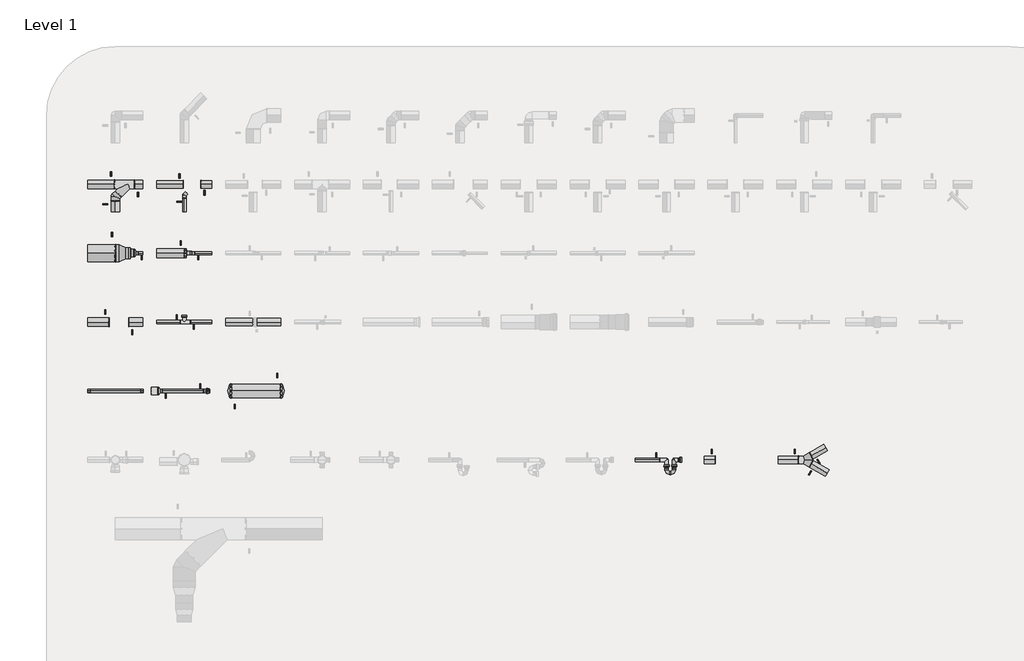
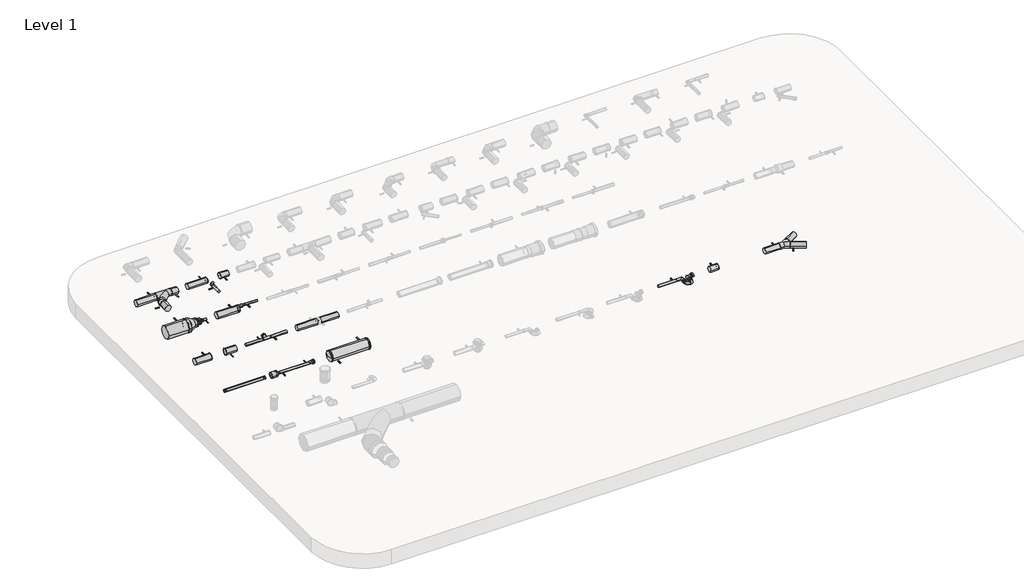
# One storey, part 2 of 6: 42 pipe fittings, 24 pipe segments.
"""IFC4 building model written with IfcOpenShell, lengths in millimetres."""

from ifc_helpers import new_model, si_unit, point, frame, frame_2d, origin, place, context, project, spatial, circle_curve, trimmed, segment, composite_curve, outline, extrude, transform, mapped, element, save
from components import var_9bac737f, var_ad64e43e, var_e8e01903, var_f264d998, var_078c649d, var_733641dc, var_dcd50663, nested_do_not_use_355ab53d, nested_do_not_use_767789ff, nested_do_not_use_92dc5302, nested_do_not_use_8d55d71e, nested_do_not_use_f3a1de72, nested_do_not_use_f8d48da3, nested_do_not_use_7bd735e8, nested_do_not_use_cade87c8, nested_do_not_use_3388fafc, nested_do_not_use_d63bcd51, welded_7e5780db, welded_b2ff7ccb, welded_75b1cb19, welded_63566782, welded_ed6f555c, welded_ac007b25

model = new_model("IFC4")

# Units and contexts
model_context = context("Model", 3, world=origin())
ifc_project = project(units=[si_unit("LENGTHUNIT", "METRE", prefix="MILLI")], contexts=[model_context])

# Site, building, storey
site = spatial("IfcSite", under=ifc_project)
building = spatial("IfcBuilding", under=site)
storey = spatial("IfcBuildingStorey", under=building, Name="Level 1", Elevation=0.0)

# Pipe fittings
placement = place(None, origin())
var_shape = var_9bac737f(model_context)
element("IfcPipeFitting", 1, ObjectType="NLRS_52_PIF_UN_HDPE cap for pipe_Akatherm : Var.", at=placement, inside=storey, context=model_context, shape_type="MappedRepresentation", body=[
    mapped(var_shape, transform((2259.9781064, 16273.6274824, 200.0), x_axis=(-1.0, 0.0, 0.0), y_axis=(0.0, -1.0, 0.0), z_axis=(0.0, 0.0, 1.0))),
])
element("IfcPipeFitting", 2, ObjectType="NLRS_52_PIF_UN_HDPE cap for pipe_Akatherm : Var.", at=placement, inside=storey, context=model_context, shape_type="MappedRepresentation", body=[
    mapped(var_shape, transform((3059.9781064, 16273.6274824, 200.0), x_axis=(1.0, 0.0, 0.0), y_axis=(0.0, 1.0, 0.0), z_axis=(0.0, 0.0, 1.0))),
])
var_2_shape = var_ad64e43e(model_context)
element("IfcPipeFitting", 3, ObjectType="NLRS_52_PIF_UN_HDPE cleanout branch_Akatherm : Var.", at=placement, inside=storey, context=model_context, shape_type="MappedRepresentation", body=[
    mapped(var_2_shape, transform((3659.9781064, 17273.6274824, 200.0), x_axis=(1.0, 0.0, 0.0), y_axis=(0.0, 1.0, 0.0), z_axis=(0.0, 0.0, 1.0))),
])
var_3_shape = var_e8e01903(model_context)
element("IfcPipeFitting", 4, ObjectType="NLRS_52_PIF_UN_HDPE end cap round_Akatherm : Var.", at=placement, inside=storey, context=model_context, shape_type="MappedRepresentation", body=[
    mapped(var_3_shape, transform((4339.9781064, 16273.6274824, 200.0), x_axis=(-1.0, 0.0, 0.0), y_axis=(0.0, -1.0, 0.0), z_axis=(0.0, 0.0, 1.0))),
])
element("IfcPipeFitting", 5, ObjectType="NLRS_52_PIF_UN_HDPE end cap round_Akatherm : Var.", at=placement, inside=storey, context=model_context, shape_type="MappedRepresentation", body=[
    mapped(var_3_shape, transform((5059.9781064, 16273.6274824, 200.0), x_axis=(1.0, 0.0, 0.0), y_axis=(0.0, 1.0, 0.0), z_axis=(0.0, 0.0, 1.0))),
])
var_4_shape = var_f264d998(model_context)
element("IfcPipeFitting", 6, ObjectType="NLRS_52_PIF_UN_HDPE inspection screw lock_Akatherm : Var.", at=placement, inside=storey, context=model_context, shape_type="MappedRepresentation", body=[
    mapped(var_4_shape, transform((3939.9781064, 16273.6274824, 200.0), x_axis=(1.0, 0.0, 0.0), y_axis=(0.0, 1.0, 0.0), z_axis=(0.0, 0.0, 1.0))),
])
var_5_shape = var_078c649d(model_context)
element("IfcPipeFitting", 7, ObjectType="NLRS_52_PIF_UN_HDPE screw cap_Akatherm : Var.", at=placement, inside=storey, context=model_context, shape_type="MappedRepresentation", body=[
    mapped(var_5_shape, transform((3265.3781064, 16273.6274824, 200.0), x_axis=(-1.0, 0.0, 0.0), y_axis=(0.0, -1.0, 0.0), z_axis=(0.0, 0.0, 1.0))),
])
var_6_shape = var_733641dc(model_context)
element("IfcPipeFitting", 8, ObjectType="NLRS_52_PIF_UN_HDPE u trap_Akatherm : Var.", at=placement, inside=storey, context=model_context, shape_type="MappedRepresentation", body=[
    mapped(var_6_shape, transform((10714.9781064, 15273.6274824, 200.0), x_axis=(1.0, 0.0, 0.0), y_axis=(0.0, 1.0, 0.0), z_axis=(0.0, 0.0, 1.0))),
])
var_7_shape = var_dcd50663(model_context)
element("IfcPipeFitting", 9, ObjectType="NLRS_52_PIF_UN_HDPE y branch_Akatherm : Var.", at=placement, inside=storey, context=model_context, shape_type="MappedRepresentation", body=[
    mapped(var_7_shape, transform((12659.9781064, 15273.6274824, 200.0), x_axis=(1.0, 0.0, 0.0), y_axis=(0.0, 1.0, 0.0), z_axis=(0.0, 0.0, 1.0))),
])
nested_do_not_use_shape = nested_do_not_use_355ab53d(model_context)
element("IfcPipeFitting", 10, ObjectType="NLRS_52_PIF_UN_HDPE elbow for branch assembly -SH_Akatherm : nested, do not use", at=placement, inside=storey, context=model_context, shape_type="MappedRepresentation", body=[
    mapped(nested_do_not_use_shape, transform((2659.9781064, 19092.1838823, 200.0), x_axis=(0.0, 1.0, 0.0), y_axis=(-1.0, 0.0, 0.0), z_axis=(0.0, 0.0, 1.0))),
])
nested_do_not_use_2_shape = nested_do_not_use_767789ff(model_context)
element("IfcPipeFitting", 11, ObjectType="NLRS_52_PIF_UN_HDPE elbow for branch assembly -SH_Akatherm : nested, do not use", at=placement, inside=storey, context=model_context, shape_type="MappedRepresentation", body=[
    mapped(nested_do_not_use_2_shape, transform((3659.9781064, 19116.9326197, 200.0), x_axis=(0.0, 1.0, 0.0), y_axis=(-1.0, 0.0, 0.0), z_axis=(0.0, 0.0, 1.0))),
])
nested_do_not_use_3_shape = nested_do_not_use_92dc5302(model_context)
element("IfcPipeFitting", 12, ObjectType="NLRS_52_PIF_UN_HDPE reducer -SH_Akatherm : nested, do not use", at=placement, inside=storey, context=model_context, shape_type="MappedRepresentation", body=[
    mapped(nested_do_not_use_3_shape, transform((3695.7781064, 18273.6274824, 200.0), x_axis=(1.0, 0.0, 0.0), y_axis=(0.0, 1.0, 0.0), z_axis=(0.0, 0.0, 1.0))),
])
nested_do_not_use_4_shape = nested_do_not_use_8d55d71e(model_context)
element("IfcPipeFitting", 13, ObjectType="NLRS_52_PIF_UN_HDPE reducer -SH_Akatherm : nested, do not use", at=placement, inside=storey, context=model_context, shape_type="MappedRepresentation", body=[
    mapped(nested_do_not_use_4_shape, transform((3772.3781064, 18273.6274824, 235.5), x_axis=(1.0, 0.0, 0.0), y_axis=(0.0, 1.0, 0.0), z_axis=(0.0, 0.0, 1.0))),
])
nested_do_not_use_5_shape = nested_do_not_use_f3a1de72(model_context)
element("IfcPipeFitting", 14, ObjectType="NLRS_52_PIF_UN_HDPE reducer -SH_Akatherm : nested, do not use", at=placement, inside=storey, context=model_context, shape_type="MappedRepresentation", body=[
    mapped(nested_do_not_use_5_shape, transform((2750.5281064, 18273.6274824, 200.0), x_axis=(1.0, 0.0, 0.0), y_axis=(0.0, 1.0, 0.0), z_axis=(0.0, 0.0, 1.0))),
])
nested_do_not_use_6_shape = nested_do_not_use_f8d48da3(model_context)
element("IfcPipeFitting", 15, ObjectType="NLRS_52_PIF_UN_HDPE reducer -SH_Akatherm : nested, do not use", at=placement, inside=storey, context=model_context, shape_type="MappedRepresentation", body=[
    mapped(nested_do_not_use_6_shape, transform((2878.3781064, 18273.6274824, 200.0), x_axis=(1.0, 0.0, 0.0), y_axis=(0.0, 1.0, 0.0), z_axis=(0.0, 0.0, 1.0))),
])
nested_do_not_use_7_shape = nested_do_not_use_7bd735e8(model_context)
element("IfcPipeFitting", 16, ObjectType="NLRS_52_PIF_UN_HDPE reducer -SH_Akatherm : nested, do not use", at=placement, inside=storey, context=model_context, shape_type="MappedRepresentation", body=[
    mapped(nested_do_not_use_7_shape, transform((2950.9781064, 18273.6274824, 200.0), x_axis=(1.0, 0.0, 0.0), y_axis=(0.0, 1.0, 0.0), z_axis=(0.0, 0.0, 1.0))),
])
nested_do_not_use_8_shape = nested_do_not_use_cade87c8(model_context)
element("IfcPipeFitting", 17, ObjectType="NLRS_52_PIF_UN_HDPE reducer -SH_Akatherm : nested, do not use", at=placement, inside=storey, context=model_context, shape_type="MappedRepresentation", body=[
    mapped(nested_do_not_use_8_shape, transform((3301.6781064, 16273.6274824, 200.0), x_axis=(1.0, 0.0, 0.0), y_axis=(0.0, 1.0, 0.0), z_axis=(0.0, 0.0, 1.0))),
])
nested_do_not_use_9_shape = nested_do_not_use_3388fafc(model_context)
element("IfcPipeFitting", 18, ObjectType="NLRS_52_PIF_UN_HDPE equal branch -SH_Akatherm : nested, do not use", at=placement, inside=storey, context=model_context, shape_type="MappedRepresentation", body=[
    mapped(nested_do_not_use_9_shape, transform((2841.4217065, 19273.6274824, 200.0), x_axis=(-1.0, 0.0, 0.0), y_axis=(0.0, -1.0, 0.0), z_axis=(0.0, 0.0, 1.0))),
])
nested_do_not_use_10_shape = nested_do_not_use_d63bcd51(model_context)
element("IfcPipeFitting", 19, ObjectType="NLRS_52_PIF_UN_HDPE end cap for inspection screw lock -SH_Akatherm : nested, do not use", at=placement, inside=storey, context=model_context, shape_type="MappedRepresentation", body=[
    mapped(nested_do_not_use_10_shape, transform((4010.2781064, 16273.6274824, 200.0), x_axis=(1.0, 0.0, 0.0), y_axis=(0.0, 1.0, 0.0), z_axis=(0.0, 0.0, 1.0))),
])
welded_shape = welded_7e5780db(model_context)
element("IfcPipeFitting", 20, ObjectType="NLRS_52_PIF_UN_HDPE weld_Akatherm : welded", at=placement, inside=storey, context=model_context, shape_type="MappedRepresentation", body=[
    mapped(welded_shape, transform((2937.2217065, 19273.6274824, 200.0), x_axis=(1.0, 0.0, 0.0), y_axis=(0.0, 1.0, 0.0), z_axis=(0.0, 0.0, 1.0))),
])
element("IfcPipeFitting", 21, ObjectType="NLRS_52_PIF_UN_HDPE weld_Akatherm : welded", at=placement, inside=storey, context=model_context, shape_type="MappedRepresentation", body=[
    mapped(welded_shape, transform((2645.6217065, 19273.6274824, 200.0), x_axis=(-1.0, 0.0, 0.0), y_axis=(0.0, -1.0, 0.0), z_axis=(0.0, 0.0, 1.0))),
])
element("IfcPipeFitting", 22, ObjectType="NLRS_52_PIF_UN_HDPE weld_Akatherm : welded", at=placement, inside=storey, context=model_context, shape_type="MappedRepresentation", body=[
    mapped(welded_shape, transform((2659.9781064, 19031.3838823, 200.0), x_axis=(0.0, -1.0, 0.0), y_axis=(1.0, 0.0, 0.0), z_axis=(0.0, 0.0, 1.0))),
])
element("IfcPipeFitting", 23, ObjectType="NLRS_52_PIF_UN_HDPE weld_Akatherm : welded", at=placement, inside=storey, context=model_context, shape_type="MappedRepresentation", body=[
    mapped(welded_shape, transform((3659.9781064, 18273.6274824, 200.0), x_axis=(-1.0, 0.0, 0.0), y_axis=(0.0, -1.0, 0.0), z_axis=(0.0, 0.0, 1.0))),
])
element("IfcPipeFitting", 24, ObjectType="NLRS_52_PIF_UN_HDPE weld_Akatherm : welded", at=placement, inside=storey, context=model_context, shape_type="MappedRepresentation", body=[
    mapped(welded_shape, transform((2564.1781064, 17273.6274824, 200.0), x_axis=(-1.0, 0.0, 0.0), y_axis=(0.0, -1.0, 0.0), z_axis=(0.0, 0.0, 1.0))),
])
element("IfcPipeFitting", 25, ObjectType="NLRS_52_PIF_UN_HDPE weld_Akatherm : welded", at=placement, inside=storey, context=model_context, shape_type="MappedRepresentation", body=[
    mapped(welded_shape, transform((2855.7781064, 17273.6274824, 200.0), x_axis=(1.0, 0.0, 0.0), y_axis=(0.0, 1.0, 0.0), z_axis=(0.0, 0.0, 1.0))),
])
welded_2_shape = welded_b2ff7ccb(model_context)
element("IfcPipeFitting", 26, ObjectType="NLRS_52_PIF_UN_HDPE weld_Akatherm : welded", at=placement, inside=storey, context=model_context, shape_type="MappedRepresentation", body=[
    mapped(welded_2_shape, transform((5059.9781064, 16273.6274824, 200.0), x_axis=(-1.0, 0.0, 0.0), y_axis=(0.0, -1.0, 0.0), z_axis=(0.0, 0.0, 1.0))),
])
element("IfcPipeFitting", 27, ObjectType="NLRS_52_PIF_UN_HDPE weld_Akatherm : welded", at=placement, inside=storey, context=model_context, shape_type="MappedRepresentation", body=[
    mapped(welded_2_shape, transform((4339.9781064, 16273.6274824, 200.0), x_axis=(1.0, 0.0, 0.0), y_axis=(0.0, 1.0, 0.0), z_axis=(0.0, 0.0, 1.0))),
])
welded_3_shape = welded_75b1cb19(model_context)
element("IfcPipeFitting", 28, ObjectType="NLRS_52_PIF_UN_HDPE weld_Akatherm : welded", at=placement, inside=storey, context=model_context, shape_type="MappedRepresentation", body=[
    mapped(welded_3_shape, transform((3659.9781064, 19073.6326197, 200.0), x_axis=(0.0, -1.0, 0.0), y_axis=(1.0, 0.0, 0.0), z_axis=(0.0, 0.0, 1.0))),
])
element("IfcPipeFitting", 29, ObjectType="NLRS_52_PIF_UN_HDPE weld_Akatherm : welded", at=placement, inside=storey, context=model_context, shape_type="MappedRepresentation", body=[
    mapped(welded_3_shape, transform((3601.6781064, 17273.6274824, 200.0), x_axis=(-1.0, 0.0, 0.0), y_axis=(0.0, -1.0, 0.0), z_axis=(0.0, 0.0, 1.0))),
])
element("IfcPipeFitting", 30, ObjectType="NLRS_52_PIF_UN_HDPE weld_Akatherm : welded", at=placement, inside=storey, context=model_context, shape_type="MappedRepresentation", body=[
    mapped(welded_3_shape, transform((3748.2781064, 17273.6274824, 200.0), x_axis=(1.0, 0.0, 0.0), y_axis=(0.0, 1.0, 0.0), z_axis=(0.0, 0.0, 1.0))),
])
element("IfcPipeFitting", 31, ObjectType="NLRS_52_PIF_UN_HDPE weld_Akatherm : welded", at=placement, inside=storey, context=model_context, shape_type="MappedRepresentation", body=[
    mapped(welded_3_shape, transform((3339.9781064, 16273.6274824, 200.0), x_axis=(1.0, 0.0, 0.0), y_axis=(0.0, 1.0, 0.0), z_axis=(0.0, 0.0, 1.0))),
])
element("IfcPipeFitting", 32, ObjectType="NLRS_52_PIF_UN_HDPE weld_Akatherm : welded", at=placement, inside=storey, context=model_context, shape_type="MappedRepresentation", body=[
    mapped(welded_3_shape, transform((3939.9781064, 16273.6274824, 200.0), x_axis=(-1.0, 0.0, 0.0), y_axis=(0.0, -1.0, 0.0), z_axis=(0.0, 0.0, 1.0))),
])
element("IfcPipeFitting", 33, ObjectType="NLRS_52_PIF_UN_HDPE weld_Akatherm : welded", at=placement, inside=storey, context=model_context, shape_type="MappedRepresentation", body=[
    mapped(welded_3_shape, transform((10557.6781064, 15273.6274824, 200.0), x_axis=(-1.0, 0.0, 0.0), y_axis=(0.0, -1.0, 0.0), z_axis=(0.0, 0.0, 1.0))),
])
welded_4_shape = welded_63566782(model_context)
element("IfcPipeFitting", 34, ObjectType="NLRS_52_PIF_UN_HDPE weld_Akatherm : welded", at=placement, inside=storey, context=model_context, shape_type="MappedRepresentation", body=[
    mapped(welded_4_shape, transform((3810.6781064, 18273.6274824, 238.5), x_axis=(1.0, 0.0, 0.0), y_axis=(0.0, 1.0, 0.0), z_axis=(0.0, 0.0, 1.0))),
])
element("IfcPipeFitting", 35, ObjectType="NLRS_52_PIF_UN_HDPE weld_Akatherm : welded", at=placement, inside=storey, context=model_context, shape_type="MappedRepresentation", body=[
    mapped(welded_4_shape, transform((2989.2781064, 18273.6274824, 200.0), x_axis=(1.0, 0.0, 0.0), y_axis=(0.0, 1.0, 0.0), z_axis=(0.0, 0.0, 1.0))),
])
welded_5_shape = welded_ed6f555c(model_context)
element("IfcPipeFitting", 36, ObjectType="NLRS_52_PIF_UN_HDPE weld_Akatherm : welded", at=placement, inside=storey, context=model_context, shape_type="MappedRepresentation", body=[
    mapped(welded_5_shape, transform((2659.9781064, 18273.6274824, 200.0), x_axis=(-1.0, 0.0, 0.0), y_axis=(0.0, -1.0, 0.0), z_axis=(0.0, 0.0, 1.0))),
])
welded_6_shape = welded_ac007b25(model_context)
element("IfcPipeFitting", 37, ObjectType="NLRS_52_PIF_UN_HDPE weld_Akatherm : welded", at=placement, inside=storey, context=model_context, shape_type="MappedRepresentation", body=[
    mapped(welded_6_shape, transform((3902.9729691, 19273.6274824, 200.0), x_axis=(1.0, 0.0, 0.0), y_axis=(0.0, 1.0, 0.0), z_axis=(0.0, 0.0, 1.0))),
])
element("IfcPipeFitting", 38, ObjectType="NLRS_52_PIF_UN_HDPE weld_Akatherm : welded", at=placement, inside=storey, context=model_context, shape_type="MappedRepresentation", body=[
    mapped(welded_6_shape, transform((3640.3729691, 19273.6274824, 200.0), x_axis=(-1.0, 0.0, 0.0), y_axis=(0.0, -1.0, 0.0), z_axis=(0.0, 0.0, 1.0))),
])
element("IfcPipeFitting", 39, ObjectType="NLRS_52_PIF_UN_HDPE weld_Akatherm : welded", at=placement, inside=storey, context=model_context, shape_type="MappedRepresentation", body=[
    mapped(welded_6_shape, transform((11363.6781064, 15273.6274824, 200.0), x_axis=(-1.0, 0.0, 0.0), y_axis=(0.0, -1.0, 0.0), z_axis=(0.0, 0.0, 1.0))),
])
element("IfcPipeFitting", 40, ObjectType="NLRS_52_PIF_UN_HDPE weld_Akatherm : welded", at=placement, inside=storey, context=model_context, shape_type="MappedRepresentation", body=[
    mapped(welded_6_shape, transform((12573.6781064, 15273.6274824, 200.0), x_axis=(-1.0, 0.0, 0.0), y_axis=(0.0, -1.0, 0.0), z_axis=(0.0, 0.0, 1.0))),
])
element("IfcPipeFitting", 41, ObjectType="NLRS_52_PIF_UN_HDPE weld_Akatherm : welded", at=placement, inside=storey, context=model_context, shape_type="MappedRepresentation", body=[
    mapped(welded_6_shape, transform((12760.6968609, 15331.7774824, 200.0), x_axis=(0.8660254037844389, 0.49999999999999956, 0.0), y_axis=(-0.49999999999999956, 0.8660254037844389, 0.0), z_axis=(0.0, 0.0, 1.0))),
])
element("IfcPipeFitting", 42, ObjectType="NLRS_52_PIF_UN_HDPE weld_Akatherm : welded", at=placement, inside=storey, context=model_context, shape_type="MappedRepresentation", body=[
    mapped(welded_6_shape, transform((12760.6968609, 15215.4774824, 200.0), x_axis=(0.8660254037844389, -0.49999999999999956, 0.0), y_axis=(0.49999999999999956, 0.8660254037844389, 0.0), z_axis=(0.0, 0.0, 1.0))),
])

# Pipe segments
element("IfcPipeSegment", 43, ObjectType="NLRS_52_PI_HDPE buis (DN)_Akatherm", at=placement, inside=storey, context=model_context, shape_type="SweptSolid", body=[
    extrude(outline(composite_curve([segment(trimmed(circle_curve(frame_2d((19273.6274824, 200.0)), 62.5), [point((19211.1274824, 200.0))], [point((19273.6274824, 262.5))], False, "CARTESIAN"), True, "CONTINUOUS"), segment(trimmed(circle_curve(frame_2d((19273.6274824, 200.0)), 62.5), [point((19273.6274824, 262.5))], [point((19336.1274824, 200.0))], False, "CARTESIAN"), True, "CONTINUOUS"), segment(trimmed(circle_curve(frame_2d((19273.6274824, 200.0)), 62.5), [point((19336.1274824, 200.0))], [point((19273.6274824, 137.5))], False, "CARTESIAN"), True, "CONTINUOUS"), segment(trimmed(circle_curve(frame_2d((19273.6274824, 200.0)), 62.5), [point((19273.6274824, 137.5))], [point((19211.1274824, 200.0))], False, "CARTESIAN"), True, "CONTINUOUS")], self_intersect=False)), frame((2933.0217065, 0.0, 0.0), z_axis=(1.0, 0.0, 0.0), x_axis=(0.0, 1.0, 0.0)), (0.0, 0.0, 1.0), 126.9563999),
])
element("IfcPipeSegment", 44, ObjectType="NLRS_52_PI_HDPE buis (DN)_Akatherm", at=placement, inside=storey, context=model_context, shape_type="SweptSolid", body=[
    extrude(outline(composite_curve([segment(trimmed(circle_curve(frame_2d((200.0, 2659.9781064)), 62.5), [point((200.0, 2597.4781064))], [point((137.5, 2659.9781064))], False, "CARTESIAN"), True, "CONTINUOUS"), segment(trimmed(circle_curve(frame_2d((200.0, 2659.9781064)), 62.5), [point((137.5, 2659.9781064))], [point((200.0, 2722.4781064))], False, "CARTESIAN"), True, "CONTINUOUS"), segment(trimmed(circle_curve(frame_2d((200.0, 2659.9781064)), 62.5), [point((200.0, 2722.4781064))], [point((262.5, 2659.9781064))], False, "CARTESIAN"), True, "CONTINUOUS"), segment(trimmed(circle_curve(frame_2d((200.0, 2659.9781064)), 62.5), [point((262.5, 2659.9781064))], [point((200.0, 2597.4781064))], False, "CARTESIAN"), True, "CONTINUOUS")], self_intersect=False)), frame((0.0, 18873.6274824, 0.0), z_axis=(0.0, 1.0, 0.0), x_axis=(0.0, 0.0, 1.0)), (0.0, 0.0, 1.0), 161.9563999),
])
element("IfcPipeSegment", 45, ObjectType="NLRS_52_PI_HDPE buis (DN)_Akatherm", at=placement, inside=storey, context=model_context, shape_type="SweptSolid", body=[
    extrude(outline(composite_curve([segment(trimmed(circle_curve(frame_2d((19273.6274824, 200.0)), 62.5), [point((19211.1274824, 200.0))], [point((19273.6274824, 262.5))], False, "CARTESIAN"), True, "CONTINUOUS"), segment(trimmed(circle_curve(frame_2d((19273.6274824, 200.0)), 62.5), [point((19273.6274824, 262.5))], [point((19336.1274824, 200.0))], False, "CARTESIAN"), True, "CONTINUOUS"), segment(trimmed(circle_curve(frame_2d((19273.6274824, 200.0)), 62.5), [point((19336.1274824, 200.0))], [point((19273.6274824, 137.5))], False, "CARTESIAN"), True, "CONTINUOUS"), segment(trimmed(circle_curve(frame_2d((19273.6274824, 200.0)), 62.5), [point((19273.6274824, 137.5))], [point((19211.1274824, 200.0))], False, "CARTESIAN"), True, "CONTINUOUS")], self_intersect=False)), frame((2259.9781064, 0.0, 0.0), z_axis=(1.0, 0.0, 0.0), x_axis=(0.0, 1.0, 0.0)), (0.0, 0.0, 1.0), 389.8436001),
])
element("IfcPipeSegment", 46, ObjectType="NLRS_52_PI_HDPE buis (DN)_Akatherm", at=placement, inside=storey, context=model_context, shape_type="SweptSolid", body=[
    extrude(outline(composite_curve([segment(trimmed(circle_curve(frame_2d((19273.6274824, 200.0)), 55.0), [point((19218.6274824, 200.0))], [point((19273.6274824, 255.0))], False, "CARTESIAN"), True, "CONTINUOUS"), segment(trimmed(circle_curve(frame_2d((19273.6274824, 200.0)), 55.0), [point((19273.6274824, 255.0))], [point((19328.6274824, 200.0))], False, "CARTESIAN"), True, "CONTINUOUS"), segment(trimmed(circle_curve(frame_2d((19273.6274824, 200.0)), 55.0), [point((19328.6274824, 200.0))], [point((19273.6274824, 145.0))], False, "CARTESIAN"), True, "CONTINUOUS"), segment(trimmed(circle_curve(frame_2d((19273.6274824, 200.0)), 55.0), [point((19273.6274824, 145.0))], [point((19218.6274824, 200.0))], False, "CARTESIAN"), True, "CONTINUOUS")], self_intersect=False)), frame((3899.2729691, 0.0, 0.0), z_axis=(1.0, 0.0, 0.0), x_axis=(0.0, 1.0, 0.0)), (0.0, 0.0, 1.0), 160.7051373),
])
element("IfcPipeSegment", 47, ObjectType="NLRS_52_PI_HDPE buis (DN)_Akatherm", at=placement, inside=storey, context=model_context, shape_type="SweptSolid", body=[
    extrude(outline(composite_curve([segment(trimmed(circle_curve(frame_2d((200.0, 3659.9781064)), 25.0), [point((200.0, 3634.9781064))], [point((175.0, 3659.9781064))], False, "CARTESIAN"), True, "CONTINUOUS"), segment(trimmed(circle_curve(frame_2d((200.0, 3659.9781064)), 25.0), [point((175.0, 3659.9781064))], [point((200.0, 3684.9781064))], False, "CARTESIAN"), True, "CONTINUOUS"), segment(trimmed(circle_curve(frame_2d((200.0, 3659.9781064)), 25.0), [point((200.0, 3684.9781064))], [point((225.0, 3659.9781064))], False, "CARTESIAN"), True, "CONTINUOUS"), segment(trimmed(circle_curve(frame_2d((200.0, 3659.9781064)), 25.0), [point((225.0, 3659.9781064))], [point((200.0, 3634.9781064))], False, "CARTESIAN"), True, "CONTINUOUS")], self_intersect=False)), frame((0.0, 18873.6274824, 0.0), z_axis=(0.0, 1.0, 0.0), x_axis=(0.0, 0.0, 1.0)), (0.0, 0.0, 1.0), 201.7051373),
])
element("IfcPipeSegment", 48, ObjectType="NLRS_52_PI_HDPE buis (DN)_Akatherm", at=placement, inside=storey, context=model_context, shape_type="SweptSolid", body=[
    extrude(outline(composite_curve([segment(trimmed(circle_curve(frame_2d((19273.6274824, 200.0)), 55.0), [point((19218.6274824, 200.0))], [point((19273.6274824, 255.0))], False, "CARTESIAN"), True, "CONTINUOUS"), segment(trimmed(circle_curve(frame_2d((19273.6274824, 200.0)), 55.0), [point((19273.6274824, 255.0))], [point((19328.6274824, 200.0))], False, "CARTESIAN"), True, "CONTINUOUS"), segment(trimmed(circle_curve(frame_2d((19273.6274824, 200.0)), 55.0), [point((19328.6274824, 200.0))], [point((19273.6274824, 145.0))], False, "CARTESIAN"), True, "CONTINUOUS"), segment(trimmed(circle_curve(frame_2d((19273.6274824, 200.0)), 55.0), [point((19273.6274824, 145.0))], [point((19218.6274824, 200.0))], False, "CARTESIAN"), True, "CONTINUOUS")], self_intersect=False)), frame((3259.9781064, 0.0, 0.0), z_axis=(1.0, 0.0, 0.0), x_axis=(0.0, 1.0, 0.0)), (0.0, 0.0, 1.0), 384.0948627),
])
element("IfcPipeSegment", 49, ObjectType="NLRS_52_PI_HDPE buis (DN)_Akatherm", at=placement, inside=storey, context=model_context, shape_type="SweptSolid", body=[
    extrude(outline(composite_curve([segment(trimmed(circle_curve(frame_2d((18273.6274824, 200.0)), 125.0), [point((18148.6274824, 200.0))], [point((18273.6274824, 325.0))], False, "CARTESIAN"), True, "CONTINUOUS"), segment(trimmed(circle_curve(frame_2d((18273.6274824, 200.0)), 125.0), [point((18273.6274824, 325.0))], [point((18398.6274824, 200.0))], False, "CARTESIAN"), True, "CONTINUOUS"), segment(trimmed(circle_curve(frame_2d((18273.6274824, 200.0)), 125.0), [point((18398.6274824, 200.0))], [point((18273.6274824, 75.0))], False, "CARTESIAN"), True, "CONTINUOUS"), segment(trimmed(circle_curve(frame_2d((18273.6274824, 200.0)), 125.0), [point((18273.6274824, 75.0))], [point((18148.6274824, 200.0))], False, "CARTESIAN"), True, "CONTINUOUS")], self_intersect=False)), frame((2259.9781064, 0.0, 0.0), z_axis=(1.0, 0.0, 0.0), x_axis=(0.0, 1.0, 0.0)), (0.0, 0.0, 1.0), 406.7),
])
element("IfcPipeSegment", 50, ObjectType="NLRS_52_PI_HDPE buis (DN)_Akatherm", at=placement, inside=storey, context=model_context, shape_type="SweptSolid", body=[
    extrude(outline(composite_curve([segment(trimmed(circle_curve(frame_2d((18273.6274824, 200.0)), 20.0), [point((18253.6274824, 200.0))], [point((18273.6274824, 220.0))], False, "CARTESIAN"), True, "CONTINUOUS"), segment(trimmed(circle_curve(frame_2d((18273.6274824, 200.0)), 20.0), [point((18273.6274824, 220.0))], [point((18293.6274824, 200.0))], False, "CARTESIAN"), True, "CONTINUOUS"), segment(trimmed(circle_curve(frame_2d((18273.6274824, 200.0)), 20.0), [point((18293.6274824, 200.0))], [point((18273.6274824, 180.0))], False, "CARTESIAN"), True, "CONTINUOUS"), segment(trimmed(circle_curve(frame_2d((18273.6274824, 200.0)), 20.0), [point((18273.6274824, 180.0))], [point((18253.6274824, 200.0))], False, "CARTESIAN"), True, "CONTINUOUS")], self_intersect=False)), frame((2987.5781064, 0.0, 0.0), z_axis=(1.0, 0.0, 0.0), x_axis=(0.0, 1.0, 0.0)), (0.0, 0.0, 1.0), 72.4),
])
element("IfcPipeSegment", 51, ObjectType="NLRS_52_PI_HDPE buis (DN)_Akatherm", at=placement, inside=storey, context=model_context, shape_type="SweptSolid", body=[
    extrude(outline(composite_curve([segment(trimmed(circle_curve(frame_2d((18273.6274824, 200.0)), 62.5), [point((18211.1274824, 200.0))], [point((18273.6274824, 262.5))], False, "CARTESIAN"), True, "CONTINUOUS"), segment(trimmed(circle_curve(frame_2d((18273.6274824, 200.0)), 62.5), [point((18273.6274824, 262.5))], [point((18336.1274824, 200.0))], False, "CARTESIAN"), True, "CONTINUOUS"), segment(trimmed(circle_curve(frame_2d((18273.6274824, 200.0)), 62.5), [point((18336.1274824, 200.0))], [point((18273.6274824, 137.5))], False, "CARTESIAN"), True, "CONTINUOUS"), segment(trimmed(circle_curve(frame_2d((18273.6274824, 200.0)), 62.5), [point((18273.6274824, 137.5))], [point((18211.1274824, 200.0))], False, "CARTESIAN"), True, "CONTINUOUS")], self_intersect=False)), frame((3259.9781064, 0.0, 0.0), z_axis=(1.0, 0.0, 0.0), x_axis=(0.0, 1.0, 0.0)), (0.0, 0.0, 1.0), 404.2),
])
element("IfcPipeSegment", 52, ObjectType="NLRS_52_PI_HDPE buis (DN)_Akatherm", at=placement, inside=storey, context=model_context, shape_type="SweptSolid", body=[
    extrude(outline(composite_curve([segment(trimmed(circle_curve(frame_2d((18273.6274824, 238.5)), 20.0), [point((18253.6274824, 238.5))], [point((18273.6274824, 258.5))], False, "CARTESIAN"), True, "CONTINUOUS"), segment(trimmed(circle_curve(frame_2d((18273.6274824, 238.5)), 20.0), [point((18273.6274824, 258.5))], [point((18293.6274824, 238.5))], False, "CARTESIAN"), True, "CONTINUOUS"), segment(trimmed(circle_curve(frame_2d((18273.6274824, 238.5)), 20.0), [point((18293.6274824, 238.5))], [point((18273.6274824, 218.5))], False, "CARTESIAN"), True, "CONTINUOUS"), segment(trimmed(circle_curve(frame_2d((18273.6274824, 238.5)), 20.0), [point((18273.6274824, 218.5))], [point((18253.6274824, 238.5))], False, "CARTESIAN"), True, "CONTINUOUS")], self_intersect=False)), frame((3808.9781064, 0.0, 0.0), z_axis=(1.0, 0.0, 0.0), x_axis=(0.0, 1.0, 0.0)), (0.0, 0.0, 1.0), 251.0),
])
element("IfcPipeSegment", 53, ObjectType="NLRS_52_PI_HDPE buis (DN)_Akatherm", at=placement, inside=storey, context=model_context, shape_type="SweptSolid", body=[
    extrude(outline(composite_curve([segment(trimmed(circle_curve(frame_2d((17273.6274824, 200.0)), 62.5), [point((17211.1274824, 200.0))], [point((17273.6274824, 262.5))], False, "CARTESIAN"), True, "CONTINUOUS"), segment(trimmed(circle_curve(frame_2d((17273.6274824, 200.0)), 62.5), [point((17273.6274824, 262.5))], [point((17336.1274824, 200.0))], False, "CARTESIAN"), True, "CONTINUOUS"), segment(trimmed(circle_curve(frame_2d((17273.6274824, 200.0)), 62.5), [point((17336.1274824, 200.0))], [point((17273.6274824, 137.5))], False, "CARTESIAN"), True, "CONTINUOUS"), segment(trimmed(circle_curve(frame_2d((17273.6274824, 200.0)), 62.5), [point((17273.6274824, 137.5))], [point((17211.1274824, 200.0))], False, "CARTESIAN"), True, "CONTINUOUS")], self_intersect=False)), frame((2259.9781064, 0.0, 0.0), z_axis=(1.0, 0.0, 0.0), x_axis=(0.0, 1.0, 0.0)), (0.0, 0.0, 1.0), 308.4),
])
element("IfcPipeSegment", 54, ObjectType="NLRS_52_PI_HDPE buis (DN)_Akatherm", at=placement, inside=storey, context=model_context, shape_type="SweptSolid", body=[
    extrude(outline(composite_curve([segment(trimmed(circle_curve(frame_2d((17273.6274824, 200.0)), 62.5), [point((17211.1274824, 200.0))], [point((17273.6274824, 262.5))], False, "CARTESIAN"), True, "CONTINUOUS"), segment(trimmed(circle_curve(frame_2d((17273.6274824, 200.0)), 62.5), [point((17273.6274824, 262.5))], [point((17336.1274824, 200.0))], False, "CARTESIAN"), True, "CONTINUOUS"), segment(trimmed(circle_curve(frame_2d((17273.6274824, 200.0)), 62.5), [point((17336.1274824, 200.0))], [point((17273.6274824, 137.5))], False, "CARTESIAN"), True, "CONTINUOUS"), segment(trimmed(circle_curve(frame_2d((17273.6274824, 200.0)), 62.5), [point((17273.6274824, 137.5))], [point((17211.1274824, 200.0))], False, "CARTESIAN"), True, "CONTINUOUS")], self_intersect=False)), frame((2851.5781064, 0.0, 0.0), z_axis=(1.0, 0.0, 0.0), x_axis=(0.0, 1.0, 0.0)), (0.0, 0.0, 1.0), 208.4),
])
element("IfcPipeSegment", 55, ObjectType="NLRS_52_PI_HDPE buis (DN)_Akatherm", at=placement, inside=storey, context=model_context, shape_type="SweptSolid", body=[
    extrude(outline(composite_curve([segment(trimmed(circle_curve(frame_2d((17273.6274824, 200.0)), 25.0), [point((17248.6274824, 200.0))], [point((17273.6274824, 225.0))], False, "CARTESIAN"), True, "CONTINUOUS"), segment(trimmed(circle_curve(frame_2d((17273.6274824, 200.0)), 25.0), [point((17273.6274824, 225.0))], [point((17298.6274824, 200.0))], False, "CARTESIAN"), True, "CONTINUOUS"), segment(trimmed(circle_curve(frame_2d((17273.6274824, 200.0)), 25.0), [point((17298.6274824, 200.0))], [point((17273.6274824, 175.0))], False, "CARTESIAN"), True, "CONTINUOUS"), segment(trimmed(circle_curve(frame_2d((17273.6274824, 200.0)), 25.0), [point((17273.6274824, 175.0))], [point((17248.6274824, 200.0))], False, "CARTESIAN"), True, "CONTINUOUS")], self_intersect=False)), frame((3259.9781064, 0.0, 0.0), z_axis=(1.0, 0.0, 0.0), x_axis=(0.0, 1.0, 0.0)), (0.0, 0.0, 1.0), 343.4),
])
element("IfcPipeSegment", 56, ObjectType="NLRS_52_PI_HDPE buis (DN)_Akatherm", at=placement, inside=storey, context=model_context, shape_type="SweptSolid", body=[
    extrude(outline(composite_curve([segment(trimmed(circle_curve(frame_2d((17273.6274824, 200.0)), 25.0), [point((17248.6274824, 200.0))], [point((17273.6274824, 225.0))], False, "CARTESIAN"), True, "CONTINUOUS"), segment(trimmed(circle_curve(frame_2d((17273.6274824, 200.0)), 25.0), [point((17273.6274824, 225.0))], [point((17298.6274824, 200.0))], False, "CARTESIAN"), True, "CONTINUOUS"), segment(trimmed(circle_curve(frame_2d((17273.6274824, 200.0)), 25.0), [point((17298.6274824, 200.0))], [point((17273.6274824, 175.0))], False, "CARTESIAN"), True, "CONTINUOUS"), segment(trimmed(circle_curve(frame_2d((17273.6274824, 200.0)), 25.0), [point((17273.6274824, 175.0))], [point((17248.6274824, 200.0))], False, "CARTESIAN"), True, "CONTINUOUS")], self_intersect=False)), frame((3746.5781064, 0.0, 0.0), z_axis=(1.0, 0.0, 0.0), x_axis=(0.0, 1.0, 0.0)), (0.0, 0.0, 1.0), 313.4),
])
element("IfcPipeSegment", 57, ObjectType="NLRS_52_PI_HDPE buis (DN)_Akatherm", at=placement, inside=storey, context=model_context, shape_type="SweptSolid", body=[
    extrude(outline(composite_curve([segment(trimmed(circle_curve(frame_2d((17273.6274824, 200.0)), 55.0), [point((17218.6274824, 200.0))], [point((17273.6274824, 255.0))], False, "CARTESIAN"), True, "CONTINUOUS"), segment(trimmed(circle_curve(frame_2d((17273.6274824, 200.0)), 55.0), [point((17273.6274824, 255.0))], [point((17328.6274824, 200.0))], False, "CARTESIAN"), True, "CONTINUOUS"), segment(trimmed(circle_curve(frame_2d((17273.6274824, 200.0)), 55.0), [point((17328.6274824, 200.0))], [point((17273.6274824, 145.0))], False, "CARTESIAN"), True, "CONTINUOUS"), segment(trimmed(circle_curve(frame_2d((17273.6274824, 200.0)), 55.0), [point((17273.6274824, 145.0))], [point((17218.6274824, 200.0))], False, "CARTESIAN"), True, "CONTINUOUS")], self_intersect=False)), frame((4259.9781064, 0.0, 0.0), z_axis=(1.0, 0.0, 0.0), x_axis=(0.0, 1.0, 0.0)), (0.0, 0.0, 1.0), 401.4),
])
element("IfcPipeSegment", 58, ObjectType="NLRS_52_PI_HDPE buis (DN)_Akatherm", at=placement, inside=storey, context=model_context, shape_type="SweptSolid", body=[
    extrude(outline(composite_curve([segment(trimmed(circle_curve(frame_2d((17273.6274824, 200.0)), 55.0), [point((17218.6274824, 200.0))], [point((17273.6274824, 255.0))], False, "CARTESIAN"), True, "CONTINUOUS"), segment(trimmed(circle_curve(frame_2d((17273.6274824, 200.0)), 55.0), [point((17273.6274824, 255.0))], [point((17328.6274824, 200.0))], False, "CARTESIAN"), True, "CONTINUOUS"), segment(trimmed(circle_curve(frame_2d((17273.6274824, 200.0)), 55.0), [point((17328.6274824, 200.0))], [point((17273.6274824, 145.0))], False, "CARTESIAN"), True, "CONTINUOUS"), segment(trimmed(circle_curve(frame_2d((17273.6274824, 200.0)), 55.0), [point((17273.6274824, 145.0))], [point((17218.6274824, 200.0))], False, "CARTESIAN"), True, "CONTINUOUS")], self_intersect=False)), frame((4665.9781064, 0.0, 0.0), z_axis=(1.0, 0.0, 0.0), x_axis=(0.0, 1.0, 0.0)), (0.0, 0.0, 1.0), 394.0),
])
element("IfcPipeSegment", 59, ObjectType="NLRS_52_PI_HDPE buis (DN)_Akatherm", at=placement, inside=storey, context=model_context, shape_type="SweptSolid", body=[
    extrude(outline(composite_curve([segment(trimmed(circle_curve(frame_2d((16273.6274824, 200.0)), 25.0), [point((16248.6274824, 200.0))], [point((16273.6274824, 225.0))], False, "CARTESIAN"), True, "CONTINUOUS"), segment(trimmed(circle_curve(frame_2d((16273.6274824, 200.0)), 25.0), [point((16273.6274824, 225.0))], [point((16298.6274824, 200.0))], False, "CARTESIAN"), True, "CONTINUOUS"), segment(trimmed(circle_curve(frame_2d((16273.6274824, 200.0)), 25.0), [point((16298.6274824, 200.0))], [point((16273.6274824, 175.0))], False, "CARTESIAN"), True, "CONTINUOUS"), segment(trimmed(circle_curve(frame_2d((16273.6274824, 200.0)), 25.0), [point((16273.6274824, 175.0))], [point((16248.6274824, 200.0))], False, "CARTESIAN"), True, "CONTINUOUS")], self_intersect=False)), frame((2259.9781064, 0.0, 0.0), z_axis=(1.0, 0.0, 0.0), x_axis=(0.0, 1.0, 0.0)), (0.0, 0.0, 1.0), 800.0),
])
element("IfcPipeSegment", 60, ObjectType="NLRS_52_PI_HDPE buis (DN)_Akatherm", at=placement, inside=storey, context=model_context, shape_type="SweptSolid", body=[
    extrude(outline(composite_curve([segment(trimmed(circle_curve(frame_2d((16273.6274824, 200.0)), 25.0), [point((16248.6274824, 200.0))], [point((16273.6274824, 225.0))], False, "CARTESIAN"), True, "CONTINUOUS"), segment(trimmed(circle_curve(frame_2d((16273.6274824, 200.0)), 25.0), [point((16273.6274824, 225.0))], [point((16298.6274824, 200.0))], False, "CARTESIAN"), True, "CONTINUOUS"), segment(trimmed(circle_curve(frame_2d((16273.6274824, 200.0)), 25.0), [point((16298.6274824, 200.0))], [point((16273.6274824, 175.0))], False, "CARTESIAN"), True, "CONTINUOUS"), segment(trimmed(circle_curve(frame_2d((16273.6274824, 200.0)), 25.0), [point((16273.6274824, 175.0))], [point((16248.6274824, 200.0))], False, "CARTESIAN"), True, "CONTINUOUS")], self_intersect=False)), frame((3338.2781064, 0.0, 0.0), z_axis=(1.0, 0.0, 0.0), x_axis=(0.0, 1.0, 0.0)), (0.0, 0.0, 1.0), 603.4),
])
element("IfcPipeSegment", 61, ObjectType="NLRS_52_PI_HDPE buis (DN)_Akatherm", at=placement, inside=storey, context=model_context, shape_type="SweptSolid", body=[
    extrude(outline(composite_curve([segment(trimmed(circle_curve(frame_2d((16273.6274824, 200.0)), 100.0), [point((16373.6274824, 200.0))], [point((16273.6274824, 100.0))], False, "CARTESIAN"), True, "CONTINUOUS"), segment(trimmed(circle_curve(frame_2d((16273.6274824, 200.0)), 100.0), [point((16273.6274824, 100.0))], [point((16173.6274824, 200.0))], False, "CARTESIAN"), True, "CONTINUOUS"), segment(trimmed(circle_curve(frame_2d((16273.6274824, 200.0)), 100.0), [point((16173.6274824, 200.0))], [point((16273.6274824, 300.0))], False, "CARTESIAN"), True, "CONTINUOUS"), segment(trimmed(circle_curve(frame_2d((16273.6274824, 200.0)), 100.0), [point((16273.6274824, 300.0))], [point((16373.6274824, 200.0))], False, "CARTESIAN"), True, "CONTINUOUS")], self_intersect=False)), frame((4334.2781064, 0.0, 0.0), z_axis=(1.0, 0.0, 0.0), x_axis=(0.0, 1.0, 0.0)), (0.0, 0.0, 1.0), 731.4),
])
element("IfcPipeSegment", 62, ObjectType="NLRS_52_PI_HDPE buis (DN)_Akatherm", at=placement, inside=storey, context=model_context, shape_type="SweptSolid", body=[
    extrude(outline(composite_curve([segment(trimmed(circle_curve(frame_2d((15273.6274824, 200.0)), 25.0), [point((15298.6274824, 200.0))], [point((15273.6274824, 175.0))], False, "CARTESIAN"), True, "CONTINUOUS"), segment(trimmed(circle_curve(frame_2d((15273.6274824, 200.0)), 25.0), [point((15273.6274824, 175.0))], [point((15248.6274824, 200.0))], False, "CARTESIAN"), True, "CONTINUOUS"), segment(trimmed(circle_curve(frame_2d((15273.6274824, 200.0)), 25.0), [point((15248.6274824, 200.0))], [point((15273.6274824, 225.0))], False, "CARTESIAN"), True, "CONTINUOUS"), segment(trimmed(circle_curve(frame_2d((15273.6274824, 200.0)), 25.0), [point((15273.6274824, 225.0))], [point((15298.6274824, 200.0))], False, "CARTESIAN"), True, "CONTINUOUS")], self_intersect=False)), frame((10204.9781064, 0.0, 0.0), z_axis=(1.0, 0.0, 0.0), x_axis=(0.0, 1.0, 0.0)), (0.0, 0.0, 1.0), 354.4),
])
element("IfcPipeSegment", 63, ObjectType="NLRS_52_PI_HDPE buis (DN)_Akatherm", at=placement, inside=storey, context=model_context, shape_type="SweptSolid", body=[
    extrude(outline(composite_curve([segment(trimmed(circle_curve(frame_2d((15273.6274824, 200.0)), 55.0), [point((15328.6274824, 200.0))], [point((15273.6274824, 145.0))], False, "CARTESIAN"), True, "CONTINUOUS"), segment(trimmed(circle_curve(frame_2d((15273.6274824, 200.0)), 55.0), [point((15273.6274824, 145.0))], [point((15218.6274824, 200.0))], False, "CARTESIAN"), True, "CONTINUOUS"), segment(trimmed(circle_curve(frame_2d((15273.6274824, 200.0)), 55.0), [point((15218.6274824, 200.0))], [point((15273.6274824, 255.0))], False, "CARTESIAN"), True, "CONTINUOUS"), segment(trimmed(circle_curve(frame_2d((15273.6274824, 200.0)), 55.0), [point((15273.6274824, 255.0))], [point((15328.6274824, 200.0))], False, "CARTESIAN"), True, "CONTINUOUS")], self_intersect=False)), frame((11204.9781064, 0.0, 0.0), z_axis=(1.0, 0.0, 0.0), x_axis=(0.0, 1.0, 0.0)), (0.0, 0.0, 1.0), 162.4),
])
element("IfcPipeSegment", 64, ObjectType="NLRS_52_PI_HDPE buis (DN)_Akatherm", at=placement, inside=storey, context=model_context, shape_type="SweptSolid", body=[
    extrude(outline(composite_curve([segment(trimmed(circle_curve(frame_2d((15273.6274824, 200.0)), 55.0), [point((15328.6274824, 200.0))], [point((15273.6274824, 145.0))], False, "CARTESIAN"), True, "CONTINUOUS"), segment(trimmed(circle_curve(frame_2d((15273.6274824, 200.0)), 55.0), [point((15273.6274824, 145.0))], [point((15218.6274824, 200.0))], False, "CARTESIAN"), True, "CONTINUOUS"), segment(trimmed(circle_curve(frame_2d((15273.6274824, 200.0)), 55.0), [point((15218.6274824, 200.0))], [point((15273.6274824, 255.0))], False, "CARTESIAN"), True, "CONTINUOUS"), segment(trimmed(circle_curve(frame_2d((15273.6274824, 200.0)), 55.0), [point((15273.6274824, 255.0))], [point((15328.6274824, 200.0))], False, "CARTESIAN"), True, "CONTINUOUS")], self_intersect=False)), frame((12284.9781064, 0.0, 0.0), z_axis=(1.0, 0.0, 0.0), x_axis=(0.0, 1.0, 0.0)), (0.0, 0.0, 1.0), 292.4),
])
element("IfcPipeSegment", 65, ObjectType="NLRS_52_PI_HDPE buis (DN)_Akatherm", at=placement, inside=storey, context=model_context, shape_type="SweptSolid", body=[
    extrude(outline(composite_curve([segment(trimmed(circle_curve(frame_2d((0.0, -55.0)), 55.0), [point((-55.0, -55.0))], [point((0.0, 0.0))], False, "CARTESIAN"), True, "CONTINUOUS"), segment(trimmed(circle_curve(frame_2d((0.0, -55.0)), 55.0), [point((0.0, 0.0))], [point((55.0, -55.0))], False, "CARTESIAN"), True, "CONTINUOUS"), segment(trimmed(circle_curve(frame_2d((0.0, -55.0)), 55.0), [point((55.0, -55.0))], [point((0.0, -110.0))], False, "CARTESIAN"), True, "CONTINUOUS"), segment(trimmed(circle_curve(frame_2d((0.0, -55.0)), 55.0), [point((0.0, -110.0))], [point((-55.0, -55.0))], False, "CARTESIAN"), True, "CONTINUOUS")], self_intersect=False)), frame((12993.3978869, 15081.1274824, 145.0), z_axis=(-0.8660254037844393, 0.499999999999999, 0.0), x_axis=(0.499999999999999, 0.8660254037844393, 0.0)), (0.0, 0.0, 1.0), 272.4),
])
element("IfcPipeSegment", 66, ObjectType="NLRS_52_PI_HDPE buis (DN)_Akatherm", at=placement, inside=storey, context=model_context, shape_type="SweptSolid", body=[
    extrude(outline(composite_curve([segment(trimmed(circle_curve(frame_2d((0.0, 55.0)), 55.0), [point((55.0, 55.0))], [point((0.0, 0.0))], False, "CARTESIAN"), True, "CONTINUOUS"), segment(trimmed(circle_curve(frame_2d((0.0, 55.0)), 55.0), [point((0.0, 0.0))], [point((-55.0, 55.0))], False, "CARTESIAN"), True, "CONTINUOUS"), segment(trimmed(circle_curve(frame_2d((0.0, 55.0)), 55.0), [point((-55.0, 55.0))], [point((0.0, 110.0))], False, "CARTESIAN"), True, "CONTINUOUS"), segment(trimmed(circle_curve(frame_2d((0.0, 55.0)), 55.0), [point((0.0, 110.0))], [point((55.0, 55.0))], False, "CARTESIAN"), True, "CONTINUOUS")], self_intersect=False)), frame((12757.4925669, 15329.9274824, 255.0), z_axis=(0.8660254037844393, 0.499999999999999, 0.0), x_axis=(0.499999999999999, -0.8660254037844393, 0.0)), (0.0, 0.0, 1.0), 243.7),
])

save(model, "model.ifc")
